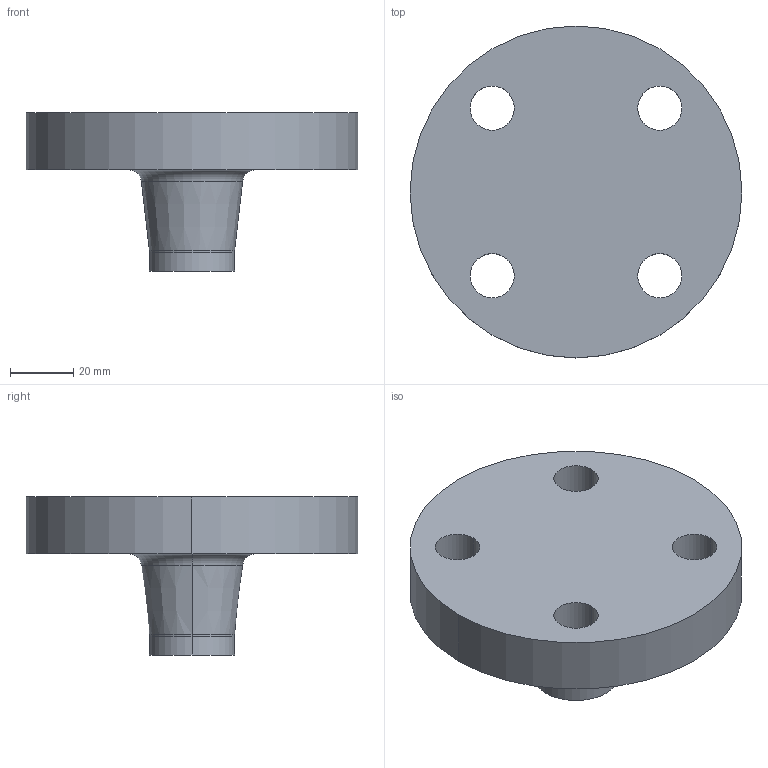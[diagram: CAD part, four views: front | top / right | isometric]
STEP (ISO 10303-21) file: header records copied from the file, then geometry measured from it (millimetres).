
FILE_DESCRIPTION (( 'STEP AP214' ), '1' );
FILE_NAME ('PN40 DN20 Type 21(ii) - Type A Face.STEP', '2018-12-29T16:19:45', ( '' ), ( '' ), 'SwSTEP 2.0', 'SolidWorks 2019', '' );
FILE_SCHEMA (( 'AUTOMOTIVE_DESIGN' ));
Length unit declared in the file: millimetre
Products named in the file (1): PN40 DN20 Type 21(ii) - Type A Face
Bounding box: 105 x 105 x 50 mm (x, y, z)
Volume: 166738.9 mm3; surface area: 27744 mm2
Topology: 1 solids, 1 shells, 21 faces, 48 edges, 30 vertices
Faces by surface type: cylinder 12, torus 4, plane 3, cone 2
Entity records: 658 total; most frequent: DIRECTION 126, CARTESIAN_POINT 100, ORIENTED_EDGE 96, AXIS2_PLACEMENT_3D 56, EDGE_CURVE 48, CIRCLE 34, VERTEX_POINT 30, EDGE_LOOP 30
